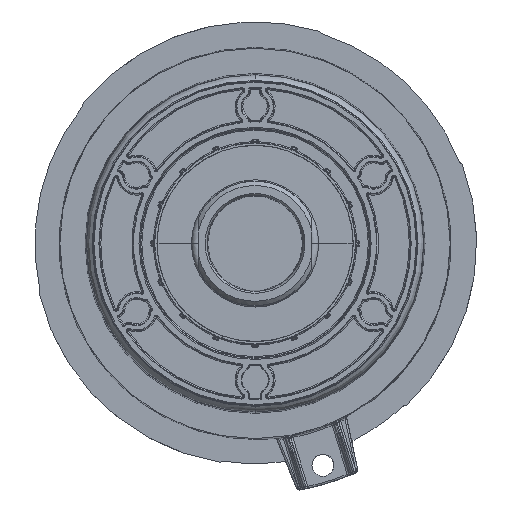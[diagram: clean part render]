
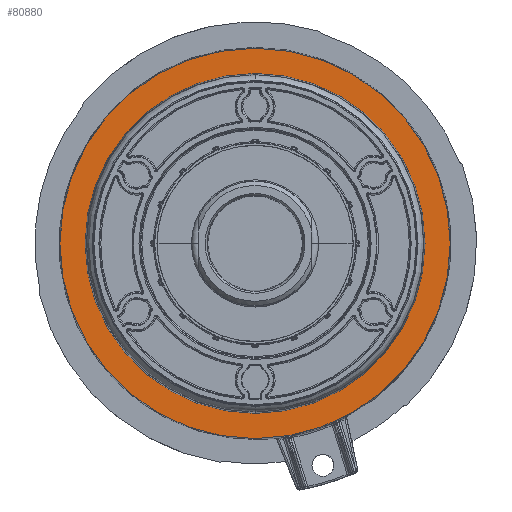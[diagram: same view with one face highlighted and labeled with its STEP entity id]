
A CAD part, front view. The second image highlights one B-rep face of the part: STEP entity #80880.
In plain terms, the highlighted planar face has unit normal (0, -1, 0).
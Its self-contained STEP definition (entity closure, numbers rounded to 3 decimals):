
#21972=CARTESIAN_POINT('',(0.,-62.,0.));
#21973=DIRECTION('',(0.,-1.,0.));
#21974=DIRECTION('',(0.,0.,-1.));
#21975=AXIS2_PLACEMENT_3D('',#21972,#21973,#21974);
#21980=CARTESIAN_POINT('',(0.,-62.,0.));
#21981=DIRECTION('',(0.,-1.,0.));
#21982=DIRECTION('',(0.,0.,1.));
#21983=AXIS2_PLACEMENT_3D('',#21980,#21981,#21982);
#21988=CARTESIAN_POINT('',(0.,-62.,0.));
#21989=DIRECTION('',(0.,-1.,0.));
#21990=DIRECTION('',(0.,0.,1.));
#21991=AXIS2_PLACEMENT_3D('',#21988,#21989,#21990);
#21996=CARTESIAN_POINT('',(0.,-62.,0.));
#21997=DIRECTION('',(0.,1.,0.));
#21998=DIRECTION('',(0.,0.,1.));
#21999=AXIS2_PLACEMENT_3D('',#21996,#21997,#21998);
#43596=CARTESIAN_POINT('',(0.,-62.,52.133));
#43597=CARTESIAN_POINT('',(0.,-62.,-52.133));
#43598=VERTEX_POINT('',#43596);
#43599=VERTEX_POINT('',#43597);
#45558=CARTESIAN_POINT('',(0.,-62.,-45.399));
#45559=VERTEX_POINT('',#45558);
#45560=CARTESIAN_POINT('',(0.,-62.,45.399));
#45561=VERTEX_POINT('',#45560);
#80864=CARTESIAN_POINT('',(0.,-62.,0.));
#80865=DIRECTION('',(0.,-1.,0.));
#80866=DIRECTION('',(0.,0.,1.));
#80867=AXIS2_PLACEMENT_3D('',#80864,#80865,#80866);
#80868=PLANE('',#80867);
#80870=ORIENTED_EDGE('',*,*,#80869,.F.);
#80872=ORIENTED_EDGE('',*,*,#80871,.T.);
#80873=EDGE_LOOP('',(#80870,#80872));
#80874=FACE_OUTER_BOUND('',#80873,.F.);
#80875=ORIENTED_EDGE('',*,*,#80854,.T.);
#80877=ORIENTED_EDGE('',*,*,#80876,.T.);
#80878=EDGE_LOOP('',(#80875,#80877));
#80879=FACE_BOUND('',#80878,.F.);
#21976=CIRCLE('',#21975,45.399);
#21984=CIRCLE('',#21983,45.399);
#21992=CIRCLE('',#21991,52.133);
#22000=CIRCLE('',#21999,52.133);
#80854=EDGE_CURVE('',#45559,#45561,#21976,.T.);
#80869=EDGE_CURVE('',#43598,#43599,#21992,.T.);
#80871=EDGE_CURVE('',#43598,#43599,#22000,.T.);
#80876=EDGE_CURVE('',#45561,#45559,#21984,.T.);
#80880=ADVANCED_FACE('',(#80874,#80879),#80868,.T.);
